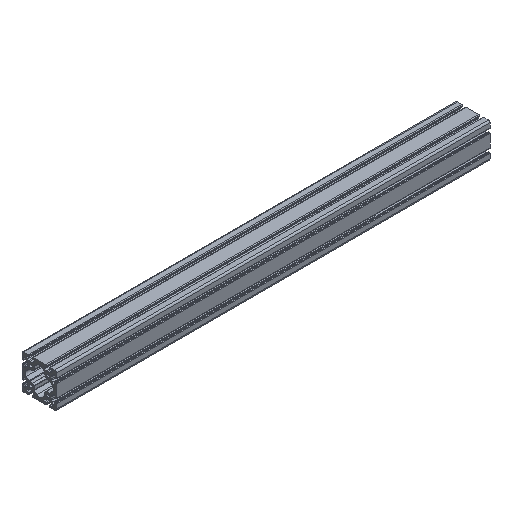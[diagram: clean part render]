
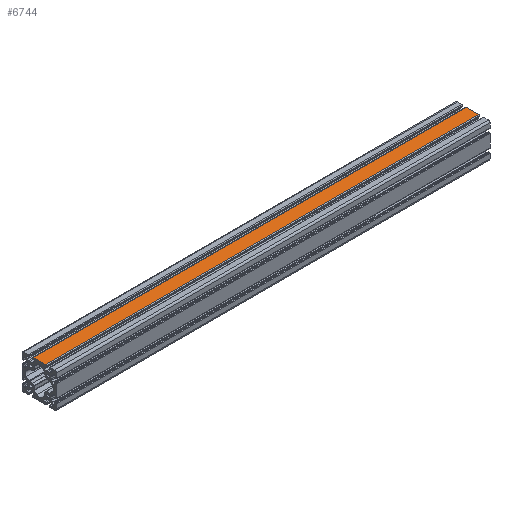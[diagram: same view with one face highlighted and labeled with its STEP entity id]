
A CAD part, isometric view. The second image highlights one B-rep face of the part: STEP entity #6744.
In plain terms, the highlighted planar face has unit normal (0, 0, 1).
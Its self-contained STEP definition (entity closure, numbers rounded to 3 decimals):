
#42 = LINE ( 'NONE', #1869, #2432 ) ;
#618 = VECTOR ( 'NONE', #1366, 1000. ) ;
#647 = VERTEX_POINT ( 'NONE', #4341 ) ;
#789 = VECTOR ( 'NONE', #4652, 1000. ) ;
#1217 = VERTEX_POINT ( 'NONE', #3701 ) ;
#1366 = DIRECTION ( 'NONE',  ( 0., -1., 0. ) ) ;
#1869 = CARTESIAN_POINT ( 'NONE',  ( 0., 14.5, 40. ) ) ;
#2022 = LINE ( 'NONE', #4114, #5932 ) ;
#2088 = ORIENTED_EDGE ( 'NONE', *, *, #2577, .T. ) ;
#2103 = CARTESIAN_POINT ( 'NONE',  ( 1000., -14.5, 40. ) ) ;
#2195 = EDGE_CURVE ( 'NONE', #6571, #1217, #42, .T. ) ;
#2375 = DIRECTION ( 'NONE',  ( 0., -1., 0. ) ) ;
#2432 = VECTOR ( 'NONE', #2375, 1000. ) ;
#2577 = EDGE_CURVE ( 'NONE', #5013, #6571, #2022, .T. ) ;
#2923 = DIRECTION ( 'NONE',  ( -1., 0., 0. ) ) ;
#3163 = ORIENTED_EDGE ( 'NONE', *, *, #2195, .T. ) ;
#3179 = EDGE_CURVE ( 'NONE', #5013, #647, #4916, .T. ) ;
#3628 = EDGE_LOOP ( 'NONE', ( #3163, #3849, #4467, #2088 ) ) ;
#3701 = CARTESIAN_POINT ( 'NONE',  ( 0., -14.5, 40. ) ) ;
#3849 = ORIENTED_EDGE ( 'NONE', *, *, #3999, .F. ) ;
#3999 = EDGE_CURVE ( 'NONE', #647, #1217, #5065, .T. ) ;
#4114 = CARTESIAN_POINT ( 'NONE',  ( 1000., 14.5, 40. ) ) ;
#4341 = CARTESIAN_POINT ( 'NONE',  ( 1000., -14.5, 40. ) ) ;
#4467 = ORIENTED_EDGE ( 'NONE', *, *, #3179, .F. ) ;
#4652 = DIRECTION ( 'NONE',  ( -1., 0., 0. ) ) ;
#4860 = AXIS2_PLACEMENT_3D ( 'NONE', #5553, #6112, #2923 ) ;
#4882 = CARTESIAN_POINT ( 'NONE',  ( 0., 14.5, 40. ) ) ;
#4916 = LINE ( 'NONE', #4921, #618 ) ;
#4921 = CARTESIAN_POINT ( 'NONE',  ( 1000., 14.5, 40. ) ) ;
#5013 = VERTEX_POINT ( 'NONE', #6584 ) ;
#5016 = PLANE ( 'NONE',  #4860 ) ;
#5065 = LINE ( 'NONE', #2103, #789 ) ;
#5346 = FACE_OUTER_BOUND ( 'NONE', #3628, .T. ) ;
#5553 = CARTESIAN_POINT ( 'NONE',  ( 1000., 14.5, 40. ) ) ;
#5932 = VECTOR ( 'NONE', #6158, 1000. ) ;
#6112 = DIRECTION ( 'NONE',  ( 0., 0., -1. ) ) ;
#6158 = DIRECTION ( 'NONE',  ( -1., 0., 0. ) ) ;
#6571 = VERTEX_POINT ( 'NONE', #4882 ) ;
#6584 = CARTESIAN_POINT ( 'NONE',  ( 1000., 14.5, 40. ) ) ;
#6744 = ADVANCED_FACE ( 'NONE', ( #5346 ), #5016, .F. ) ;
